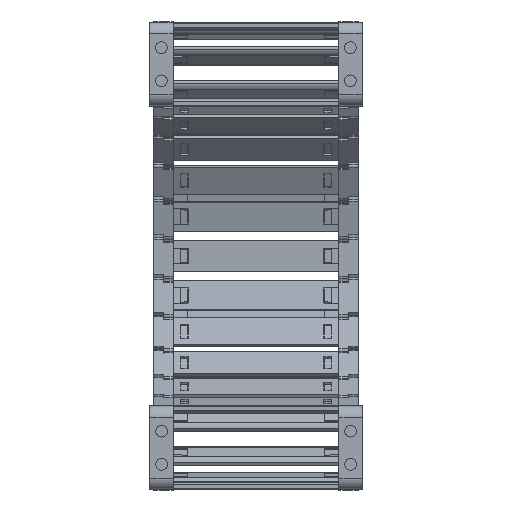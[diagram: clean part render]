
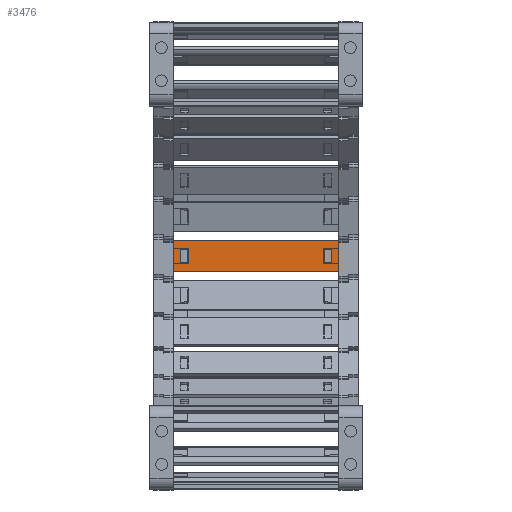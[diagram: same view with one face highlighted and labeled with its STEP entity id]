
A CAD part, left-side view. The second image highlights one B-rep face of the part: STEP entity #3476.
In plain terms, the highlighted planar face has unit normal (-1, 0, 0) as drawn and (0, 1, 0) by its records, which use the part's own axes.
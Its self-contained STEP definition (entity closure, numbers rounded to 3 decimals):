
#2845=DIRECTION('',(-1.,0.,0.));
#2846=VECTOR('',#2845,3.648);
#2847=CARTESIAN_POINT('',(66.17,1.5,4.075));
#2848=LINE('',#2847,#2846);
#2873=DIRECTION('',(1.,0.,0.));
#2874=VECTOR('',#2873,3.648);
#2875=CARTESIAN_POINT('',(62.522,1.5,-4.075));
#2876=LINE('',#2875,#2874);
#2910=DIRECTION('',(0.,0.,1.));
#2911=VECTOR('',#2910,8.15);
#2912=CARTESIAN_POINT('',(-7.142,1.5,-4.075));
#2913=LINE('',#2912,#2911);
#2931=DIRECTION('',(-1.,0.,0.));
#2932=VECTOR('',#2931,3.648);
#2933=CARTESIAN_POINT('',(-7.142,1.5,4.075));
#2934=LINE('',#2933,#2932);
#2945=DIRECTION('',(1.,0.,0.));
#2946=VECTOR('',#2945,84.9);
#2947=CARTESIAN_POINT('',(-14.76,1.5,-7.9));
#2948=LINE('',#2947,#2946);
#2952=DIRECTION('',(0.,0.,1.));
#2953=VECTOR('',#2952,8.15);
#2954=CARTESIAN_POINT('',(62.522,1.5,-4.075));
#2955=LINE('',#2954,#2953);
#2966=DIRECTION('',(0.,0.,-1.));
#2967=VECTOR('',#2966,15.8);
#2968=CARTESIAN_POINT('',(70.14,1.5,7.9));
#2969=LINE('',#2968,#2967);
#3019=DIRECTION('',(1.,0.,0.));
#3020=VECTOR('',#3019,84.9);
#3021=CARTESIAN_POINT('',(-14.76,1.5,7.9));
#3022=LINE('',#3021,#3020);
#3026=DIRECTION('',(0.,0.,1.));
#3027=VECTOR('',#3026,15.8);
#3028=CARTESIAN_POINT('',(-14.76,1.5,-7.9));
#3029=LINE('',#3028,#3027);
#3128=DIRECTION('',(0.,0.,-1.));
#3129=VECTOR('',#3128,8.15);
#3130=CARTESIAN_POINT('',(-10.79,1.5,4.075));
#3131=LINE('',#3130,#3129);
#3156=DIRECTION('',(1.,0.,0.));
#3157=VECTOR('',#3156,3.648);
#3158=CARTESIAN_POINT('',(-10.79,1.5,-4.075));
#3159=LINE('',#3158,#3157);
#3212=DIRECTION('',(0.,0.,1.));
#3213=VECTOR('',#3212,8.15);
#3214=CARTESIAN_POINT('',(66.17,1.5,-4.075));
#3215=LINE('',#3214,#3213);
#3231=CARTESIAN_POINT('',(66.17,1.5,4.075));
#3232=VERTEX_POINT('',#3231);
#3233=CARTESIAN_POINT('',(62.522,1.5,4.075));
#3234=VERTEX_POINT('',#3233);
#3242=CARTESIAN_POINT('',(70.14,1.5,7.9));
#3244=VERTEX_POINT('',#3242);
#3245=CARTESIAN_POINT('',(70.14,1.5,-7.9));
#3246=VERTEX_POINT('',#3245);
#3255=CARTESIAN_POINT('',(62.522,1.5,-4.075));
#3256=VERTEX_POINT('',#3255);
#3257=CARTESIAN_POINT('',(66.17,1.5,-4.075));
#3258=VERTEX_POINT('',#3257);
#3260=CARTESIAN_POINT('',(-14.76,1.5,7.9));
#3262=VERTEX_POINT('',#3260);
#3263=CARTESIAN_POINT('',(-14.76,1.5,-7.9));
#3264=VERTEX_POINT('',#3263);
#3275=CARTESIAN_POINT('',(-7.142,1.5,-4.075));
#3276=CARTESIAN_POINT('',(-7.142,1.5,4.075));
#3277=VERTEX_POINT('',#3275);
#3278=VERTEX_POINT('',#3276);
#3279=CARTESIAN_POINT('',(-10.79,1.5,-4.075));
#3280=VERTEX_POINT('',#3279);
#3281=CARTESIAN_POINT('',(-10.79,1.5,4.075));
#3282=VERTEX_POINT('',#3281);
#3446=CARTESIAN_POINT('',(101.88,1.5,10.061));
#3447=DIRECTION('',(0.,-1.,0.));
#3448=DIRECTION('',(0.,0.,-1.));
#3449=AXIS2_PLACEMENT_3D('',#3446,#3447,#3448);
#3450=PLANE('',#3449);
#3452=ORIENTED_EDGE('',*,*,#3451,.F.);
#3454=ORIENTED_EDGE('',*,*,#3453,.F.);
#3456=ORIENTED_EDGE('',*,*,#3455,.F.);
#3458=ORIENTED_EDGE('',*,*,#3457,.T.);
#3459=EDGE_LOOP('',(#3452,#3454,#3456,#3458));
#3460=FACE_OUTER_BOUND('',#3459,.F.);
#3461=ORIENTED_EDGE('',*,*,#3325,.T.);
#3462=ORIENTED_EDGE('',*,*,#3303,.F.);
#3464=ORIENTED_EDGE('',*,*,#3463,.F.);
#3465=ORIENTED_EDGE('',*,*,#3345,.F.);
#3466=EDGE_LOOP('',(#3461,#3462,#3464,#3465));
#3467=FACE_BOUND('',#3466,.F.);
#3468=ORIENTED_EDGE('',*,*,#3409,.F.);
#3470=ORIENTED_EDGE('',*,*,#3469,.F.);
#3472=ORIENTED_EDGE('',*,*,#3471,.F.);
#3473=ORIENTED_EDGE('',*,*,#3428,.F.);
#3474=EDGE_LOOP('',(#3468,#3470,#3472,#3473));
#3475=FACE_BOUND('',#3474,.F.);
#3476=ADVANCED_FACE('',(#3460,#3467,#3475),#3450,.F.);
#3303=EDGE_CURVE('',#3232,#3234,#2848,.T.);
#3325=EDGE_CURVE('',#3256,#3234,#2955,.T.);
#3345=EDGE_CURVE('',#3256,#3258,#2876,.T.);
#3409=EDGE_CURVE('',#3277,#3278,#2913,.T.);
#3428=EDGE_CURVE('',#3278,#3282,#2934,.T.);
#3451=EDGE_CURVE('',#3244,#3246,#2969,.T.);
#3453=EDGE_CURVE('',#3262,#3244,#3022,.T.);
#3455=EDGE_CURVE('',#3264,#3262,#3029,.T.);
#3457=EDGE_CURVE('',#3264,#3246,#2948,.T.);
#3463=EDGE_CURVE('',#3258,#3232,#3215,.T.);
#3469=EDGE_CURVE('',#3280,#3277,#3159,.T.);
#3471=EDGE_CURVE('',#3282,#3280,#3131,.T.);
